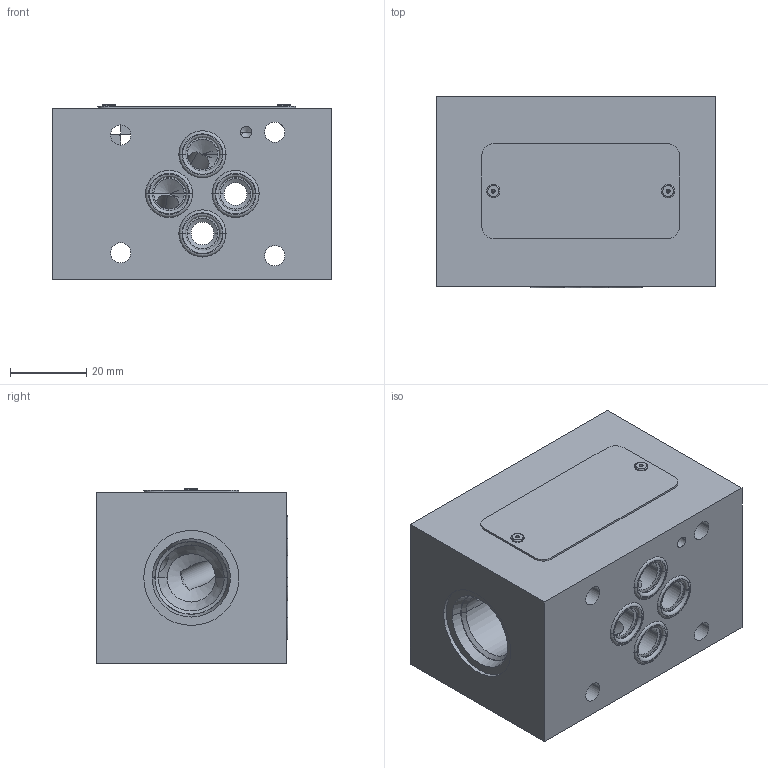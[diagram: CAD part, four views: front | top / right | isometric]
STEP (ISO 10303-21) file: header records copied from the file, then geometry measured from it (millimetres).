
FILE_DESCRIPTION((''),'2;1');
FILE_NAME('30800900_ASM','2023-10-12T',('l.soukupova'),(''),'PRO/ENGINEER BY PARAMETRIC TECHNOLOGY CORPORATION, 2015440','PRO/ENGINEER BY PARAMETRIC TECHNOLOGY CORPORATION, 2015440','');
FILE_SCHEMA(('AUTOMOTIVE_DESIGN { 1 0 10303 214 1 1 1 1 }'));
Length unit declared in the file: millimetre
Products named in the file (8): 30800801; RD_LABEL_25X52_159703; AF_1932_16485; ORAR00012_201524_AF4; ORAR00012_201524_AF5; ORAR00012_201524_AF6; ORAR00012_201524_AF7; 30800900_ASM
Assembly tree (8 placements, depth 2):
  30800900_ASM
    30800801
    RD_LABEL_25X52_159703
    AF_1932_16485  x2
    ORAR00012_201524_AF4
    ORAR00012_201524_AF5
    ORAR00012_201524_AF6
    ORAR00012_201524_AF7
Bounding box: 73.5 x 50.38 x 46 mm (x, y, z)
Volume: 147804.1 mm3; surface area: 31600.3 mm2
Topology: 8 solids, 11 shells, 194 faces, 593 edges, 491 vertices
Faces by surface type: cylinder 92, torus 36, plane 34, cone 32
Entity records: 11030 total; most frequent: CARTESIAN_POINT 2058, DIRECTION 1254, ORIENTED_EDGE 846, PRESENTATION_STYLE_ASSIGNMENT 732, STYLED_ITEM 615, CURVE_STYLE 606, AXIS2_PLACEMENT_3D 508, EDGE_CURVE 429
